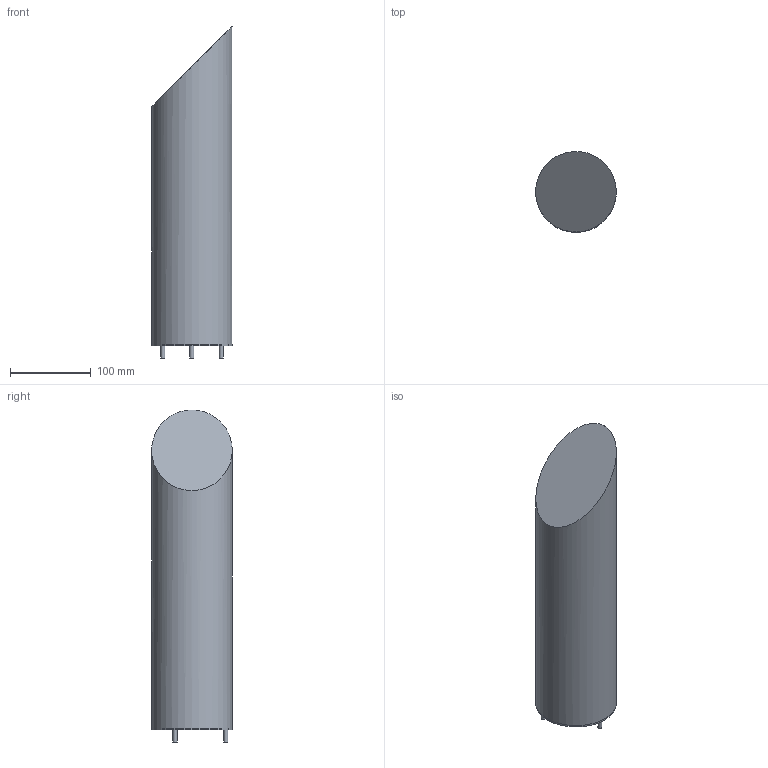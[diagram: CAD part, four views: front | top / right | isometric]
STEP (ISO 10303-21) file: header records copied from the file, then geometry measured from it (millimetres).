
FILE_DESCRIPTION(/* description */ (''),/* implementation_level */ '2;1');
FILE_NAME(/* name */ 'C:/Users/LukasGröber/GMS Cloud/Groeber Mannheim Lichtwerke - Dokumente/Marketing/Produkte/3D Daten/Light Star Sahara/Light Star Sahara 41.step',/* time_stamp */ '2022-07-06T12:52:34+02:00',/* author */ (''),/* organization */ (''),/* preprocessor_version */ 'ST-DEVELOPER v18.1',/* originating_system */ 'Autodesk Translation Framework v10.10.0.1391',/* authorisation */ '');
FILE_SCHEMA (('AUTOMOTIVE_DESIGN { 1 0 10303 214 3 1 1 }'));
Length unit declared in the file: millimetre
Products named in the file (3): Light Star Sahara 41 (Modell); Fuß Light Star/Stick Modell; Rohr Light Star Sahara 41
Assembly tree (2 placements, depth 2):
  Light Star Sahara 41 (Modell)
    Fuß Light Star/Stick Modell
    Rohr Light Star Sahara 41
Bounding box: 100 x 100 x 412 mm (x, y, z)
Volume: 520528.7 mm3; surface area: 254372.2 mm2
Topology: 2 solids, 2 shells, 18 faces, 26 edges, 17 vertices
Faces by surface type: plane 10, cylinder 7, cone 1
Full cylindrical faces by diameter (mm): 5 x3, 94 x2, 100 x2
Entity records: 498 total; most frequent: DIRECTION 89, CARTESIAN_POINT 66, ORIENTED_EDGE 52, AXIS2_PLACEMENT_3D 40, EDGE_CURVE 26, EDGE_LOOP 23, FACE_OUTER_BOUND 18, ADVANCED_FACE 18
